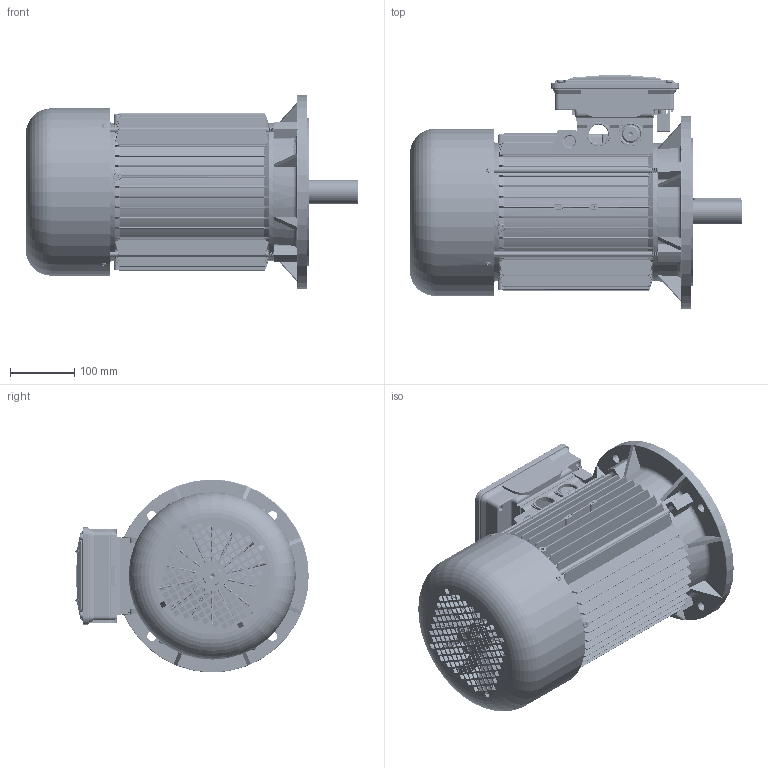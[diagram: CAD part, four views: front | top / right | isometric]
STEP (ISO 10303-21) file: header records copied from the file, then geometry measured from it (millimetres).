
FILE_DESCRIPTION (( 'STEP AP214' ), '1' );
FILE_NAME ('M24JB0010.STEP', '2019-04-13T08:31:18', ( '' ), ( '' ), 'SwSTEP 2.0', 'SolidWorks 2018', '' );
FILE_SCHEMA (( 'AUTOMOTIVE_DESIGN' ));
Length unit declared in the file: millimetre
Products named in the file (19): Guarnizione Coperchio Morsettiera Doppia Scatola BA 132 - DGBS0102; M24JB0010; Piastra stringi Pipetta BA 132 - DGBA0210 bis; Guarnizione Basetta BA 132 - DGBU0202; Vite Autofilettante Testa Bombata 4,8x9,5; Pipetta passafilo; Scatola per Morsettiera BA 132 - DGBQ0102; Tirante SM 132 M - DGCQ0003; Vite testa rotonda M3; Ventola BM 132; Cuffia SM 132; Scudo Lato Comando B3 BA 132; Chiavetta 132; Albero SM 132 M; Scatola BA 132 - Completa; Scudo a flangia B5 Fi 300 BA 132 - DGAA0195; Vite M5x20; Coperchio Scatola Morsettiera BA 132 - DGBR0002; Carcassa 132 M B5
Assembly tree (28 placements, depth 3):
  M24JB0010
    Carcassa 132 M B5
    Scudo a flangia B5 Fi 300 BA 132 - DGAA0195
    Albero SM 132 M
    Chiavetta 132
    Scudo Lato Comando B3 BA 132
    Cuffia SM 132
    Ventola BM 132
    Vite testa rotonda M3  x4
    Tirante SM 132 M - DGCQ0003  x4
    Scatola BA 132 - Completa
      Scatola per Morsettiera BA 132 - DGBQ0102
      Pipetta passafilo  x2
      Vite Autofilettante Testa Bombata 4,8x9,5
      Guarnizione Basetta BA 132 - DGBU0202
      Piastra stringi Pipetta BA 132 - DGBA0210 bis
      Guarnizione Coperchio Morsettiera Doppia Scatola BA 132 - DGBS0102
      Coperchio Scatola Morsettiera BA 132 - DGBR0002
      Vite M5x20  x4
Bounding box: 516 x 362.89 x 300 mm (x, y, z)
Volume: 4784524.1 mm3; surface area: 1899673.8 mm2
Topology: 27 solids, 27 shells, 5551 faces, 15159 edges, 9703 vertices
Faces by surface type: cylinder 2466, plane 1731, cone 484, torus 459, bspline 391, sphere 20
Entity records: 180844 total; most frequent: CARTESIAN_POINT 64910, ORIENTED_EDGE 25344, DIRECTION 22322, EDGE_CURVE 12672, AXIS2_PLACEMENT_3D 8301, VERTEX_POINT 8134, LINE 5720, VECTOR 5720
